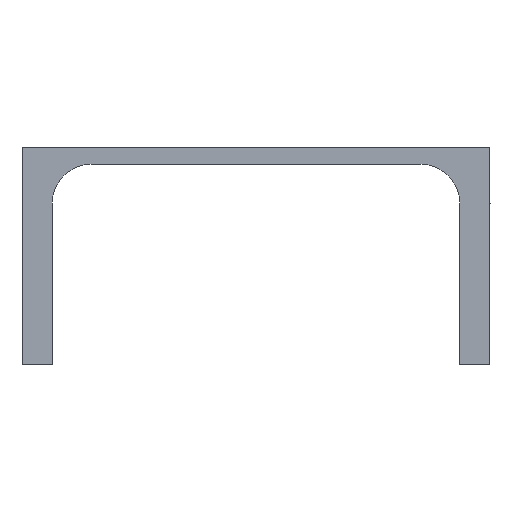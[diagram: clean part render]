
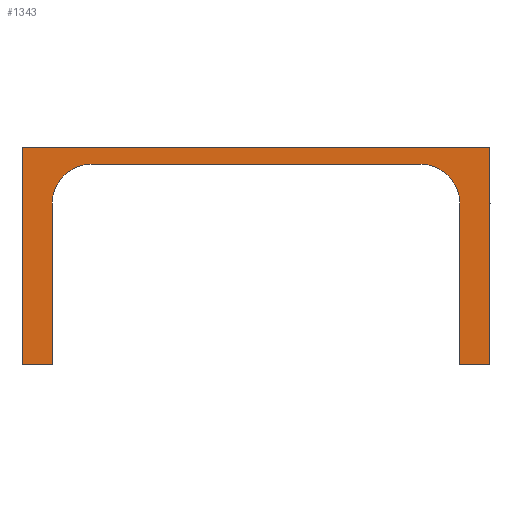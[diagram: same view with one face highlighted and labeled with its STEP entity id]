
A CAD part, left-side view. The second image highlights one B-rep face of the part: STEP entity #1343.
In plain terms, the highlighted planar face has unit normal (-1, 0, 0).
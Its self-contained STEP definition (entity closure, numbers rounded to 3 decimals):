
#8 = VECTOR ( 'NONE', #3690, 1000. ) ;
#60 = CARTESIAN_POINT ( 'NONE',  ( 9061., 1949., 4250. ) ) ;
#119 = DIRECTION ( 'NONE',  ( 0., -1., 0. ) ) ;
#154 = VERTEX_POINT ( 'NONE', #1472 ) ;
#163 = ORIENTED_EDGE ( 'NONE', *, *, #3895, .F. ) ;
#275 = CARTESIAN_POINT ( 'NONE',  ( 9061., 1961., 4233. ) ) ;
#294 = VERTEX_POINT ( 'NONE', #751 ) ;
#315 = AXIS2_PLACEMENT_3D ( 'NONE', #3427, #586, #3114 ) ;
#461 = CARTESIAN_POINT ( 'NONE',  ( 9061., 1851., 4245. ) ) ;
#515 = CIRCLE ( 'NONE', #855, 12. ) ;
#519 = CARTESIAN_POINT ( 'NONE',  ( 9061., 1839., 4233. ) ) ;
#537 = LINE ( 'NONE', #896, #2058 ) ;
#586 = DIRECTION ( 'NONE',  ( -1., 0., 0. ) ) ;
#652 = VECTOR ( 'NONE', #1873, 1000. ) ;
#751 = CARTESIAN_POINT ( 'NONE',  ( 9061., 1961., 4185. ) ) ;
#826 = DIRECTION ( 'NONE',  ( 0., 0., 1. ) ) ;
#855 = AXIS2_PLACEMENT_3D ( 'NONE', #1279, #3428, #2141 ) ;
#896 = CARTESIAN_POINT ( 'NONE',  ( 9061., 1949., 4185. ) ) ;
#924 = LINE ( 'NONE', #3450, #652 ) ;
#991 = VECTOR ( 'NONE', #1847, 1000. ) ;
#1058 = LINE ( 'NONE', #60, #3170 ) ;
#1185 = CIRCLE ( 'NONE', #3770, 12. ) ;
#1212 = FACE_OUTER_BOUND ( 'NONE', #3771, .T. ) ;
#1250 = LINE ( 'NONE', #1522, #991 ) ;
#1265 = VERTEX_POINT ( 'NONE', #2484 ) ;
#1270 = ORIENTED_EDGE ( 'NONE', *, *, #2144, .F. ) ;
#1274 = VERTEX_POINT ( 'NONE', #275 ) ;
#1279 = CARTESIAN_POINT ( 'NONE',  ( 9061., 1851., 4233. ) ) ;
#1307 = VERTEX_POINT ( 'NONE', #1850 ) ;
#1343 = ADVANCED_FACE ( 'NONE', ( #1212 ), #2466, .T. ) ;
#1472 = CARTESIAN_POINT ( 'NONE',  ( 9061., 1970., 4185. ) ) ;
#1522 = CARTESIAN_POINT ( 'NONE',  ( 9061., 1961., 4233. ) ) ;
#1531 = CARTESIAN_POINT ( 'NONE',  ( 9061., 1949., 4245. ) ) ;
#1573 = ORIENTED_EDGE ( 'NONE', *, *, #2443, .F. ) ;
#1676 = ORIENTED_EDGE ( 'NONE', *, *, #2117, .F. ) ;
#1706 = CARTESIAN_POINT ( 'NONE',  ( 9061., 1830., 4185. ) ) ;
#1790 = EDGE_CURVE ( 'NONE', #2623, #3162, #3500, .T. ) ;
#1805 = DIRECTION ( 'NONE',  ( 0., 1., 0. ) ) ;
#1847 = DIRECTION ( 'NONE',  ( 0., 0., -1. ) ) ;
#1850 = CARTESIAN_POINT ( 'NONE',  ( 9061., 1839., 4185. ) ) ;
#1873 = DIRECTION ( 'NONE',  ( 0., 0., -1. ) ) ;
#1934 = LINE ( 'NONE', #2877, #2053 ) ;
#1990 = ORIENTED_EDGE ( 'NONE', *, *, #2092, .F. ) ;
#2053 = VECTOR ( 'NONE', #2280, 1000. ) ;
#2058 = VECTOR ( 'NONE', #1805, 1000. ) ;
#2092 = EDGE_CURVE ( 'NONE', #3931, #2623, #515, .T. ) ;
#2117 = EDGE_CURVE ( 'NONE', #3820, #3203, #924, .T. ) ;
#2141 = DIRECTION ( 'NONE',  ( 0., -1., 0. ) ) ;
#2144 = EDGE_CURVE ( 'NONE', #3162, #1274, #1185, .T. ) ;
#2279 = ORIENTED_EDGE ( 'NONE', *, *, #1790, .F. ) ;
#2280 = DIRECTION ( 'NONE',  ( 0., 1., 0. ) ) ;
#2294 = EDGE_CURVE ( 'NONE', #1274, #294, #1250, .T. ) ;
#2443 = EDGE_CURVE ( 'NONE', #3203, #1307, #1934, .T. ) ;
#2466 = PLANE ( 'NONE',  #315 ) ;
#2472 = ORIENTED_EDGE ( 'NONE', *, *, #2294, .F. ) ;
#2484 = CARTESIAN_POINT ( 'NONE',  ( 9061., 1970., 4250. ) ) ;
#2619 = DIRECTION ( 'NONE',  ( 0., -1., 0. ) ) ;
#2623 = VERTEX_POINT ( 'NONE', #461 ) ;
#2636 = DIRECTION ( 'NONE',  ( -1., 0., 0. ) ) ;
#2678 = LINE ( 'NONE', #3914, #2768 ) ;
#2768 = VECTOR ( 'NONE', #826, 1000. ) ;
#2827 = CARTESIAN_POINT ( 'NONE',  ( 9061., 1949., 4245. ) ) ;
#2877 = CARTESIAN_POINT ( 'NONE',  ( 9061., 1949., 4185. ) ) ;
#3114 = DIRECTION ( 'NONE',  ( 0., -1., 0. ) ) ;
#3148 = CARTESIAN_POINT ( 'NONE',  ( 9061., 1839., 4233. ) ) ;
#3162 = VERTEX_POINT ( 'NONE', #2827 ) ;
#3170 = VECTOR ( 'NONE', #2619, 1000. ) ;
#3203 = VERTEX_POINT ( 'NONE', #1706 ) ;
#3365 = EDGE_CURVE ( 'NONE', #1265, #3820, #1058, .T. ) ;
#3422 = LINE ( 'NONE', #519, #8 ) ;
#3427 = CARTESIAN_POINT ( 'NONE',  ( 9061., 1949., 4233. ) ) ;
#3428 = DIRECTION ( 'NONE',  ( -1., 0., 0. ) ) ;
#3444 = CARTESIAN_POINT ( 'NONE',  ( 9061., 1830., 4250. ) ) ;
#3450 = CARTESIAN_POINT ( 'NONE',  ( 9061., 1830., 4233. ) ) ;
#3456 = DIRECTION ( 'NONE',  ( 0., 1., 0. ) ) ;
#3500 = LINE ( 'NONE', #1531, #3823 ) ;
#3541 = EDGE_CURVE ( 'NONE', #154, #1265, #2678, .T. ) ;
#3605 = ORIENTED_EDGE ( 'NONE', *, *, #3814, .F. ) ;
#3690 = DIRECTION ( 'NONE',  ( 0., 0., 1. ) ) ;
#3770 = AXIS2_PLACEMENT_3D ( 'NONE', #3821, #2636, #119 ) ;
#3771 = EDGE_LOOP ( 'NONE', ( #1676, #3941, #3874, #163, #2472, #1270, #2279, #1990, #3605, #1573 ) ) ;
#3814 = EDGE_CURVE ( 'NONE', #1307, #3931, #3422, .T. ) ;
#3820 = VERTEX_POINT ( 'NONE', #3444 ) ;
#3821 = CARTESIAN_POINT ( 'NONE',  ( 9061., 1949., 4233. ) ) ;
#3823 = VECTOR ( 'NONE', #3456, 1000. ) ;
#3874 = ORIENTED_EDGE ( 'NONE', *, *, #3541, .F. ) ;
#3895 = EDGE_CURVE ( 'NONE', #294, #154, #537, .T. ) ;
#3914 = CARTESIAN_POINT ( 'NONE',  ( 9061., 1970., 4233. ) ) ;
#3931 = VERTEX_POINT ( 'NONE', #3148 ) ;
#3941 = ORIENTED_EDGE ( 'NONE', *, *, #3365, .F. ) ;
